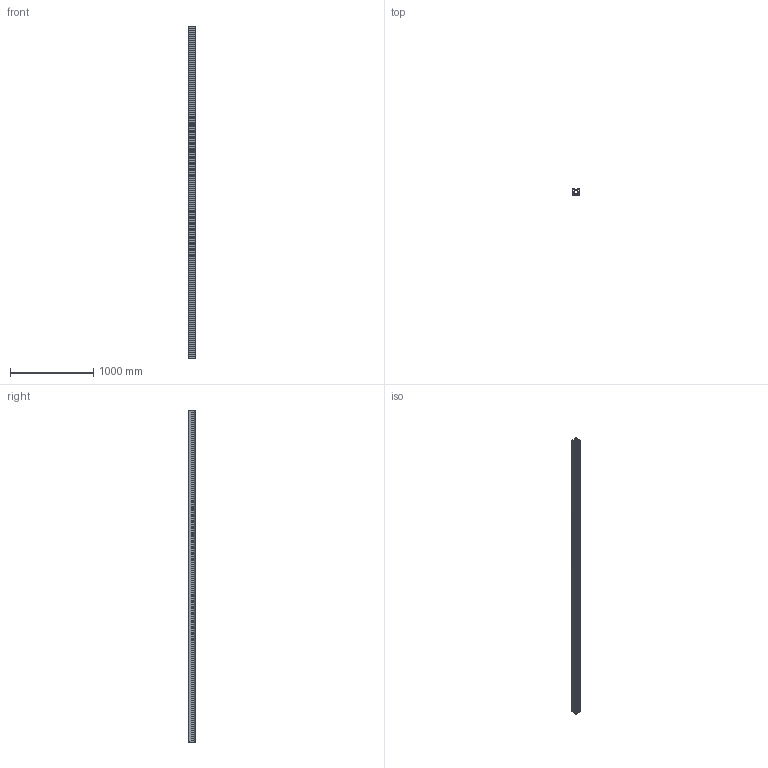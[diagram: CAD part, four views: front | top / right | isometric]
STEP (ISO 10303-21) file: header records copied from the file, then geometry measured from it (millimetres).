
FILE_DESCRIPTION (( 'STEP AP203' ), '1' );
FILE_NAME ('_-_MLF 4 3998 mm lang.step', '2005-09-01T12:47:02', ( ' ' ), ( ' ' ), 'SwSTEP 2.0', 'SolidWorks 2005187', '' );
FILE_SCHEMA (( 'CONFIG_CONTROL_DESIGN' ));
Length unit declared in the file: millimetre
Products named in the file (1): _-_MLF 4  3998 mm lang
Bounding box: 87.59 x 80 x 3998 mm (x, y, z)
Volume: 9212194 mm3; surface area: 4936852.9 mm2
Topology: 1 solids, 1 shells, 248 faces, 762 edges, 500 vertices
Faces by surface type: plane 174, cylinder 74
Entity records: 8575 total; most frequent: ORIENTED_EDGE 1524, CARTESIAN_POINT 1511, DIRECTION 1408, EDGE_CURVE 762, VECTOR 614, LINE 614, VERTEX_POINT 500, AXIS2_PLACEMENT_3D 397
